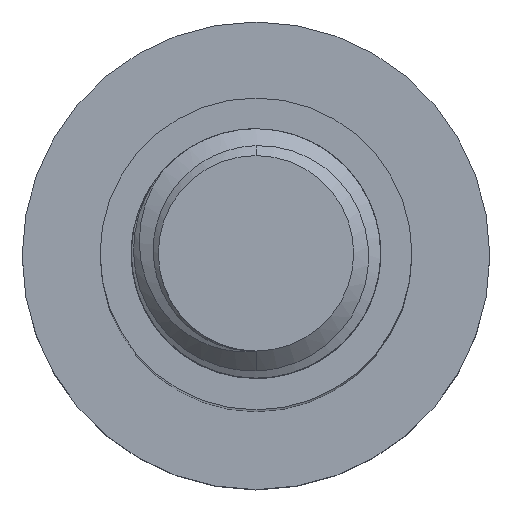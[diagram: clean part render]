
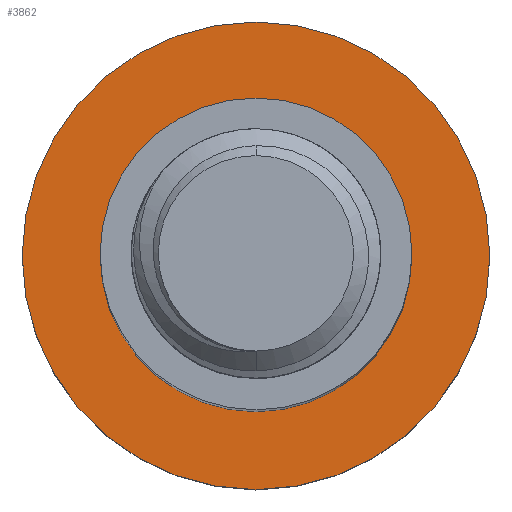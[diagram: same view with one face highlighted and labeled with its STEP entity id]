
A CAD part, top view. The second image highlights one B-rep face of the part: STEP entity #3862.
In plain terms, the highlighted planar face has unit normal (0, 0, 1).
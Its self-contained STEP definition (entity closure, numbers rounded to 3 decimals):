
#29 = AXIS2_PLACEMENT_3D ( 'NONE', #4914, #2724, #97 ) ;
#97 = DIRECTION ( 'NONE',  ( -1., 0., 0. ) ) ;
#168 = FACE_OUTER_BOUND ( 'NONE', #1509, .T. ) ;
#176 = DIRECTION ( 'NONE',  ( 0., 0., -1. ) ) ;
#205 = ORIENTED_EDGE ( 'NONE', *, *, #2447, .T. ) ;
#495 = AXIS2_PLACEMENT_3D ( 'NONE', #945, #571, #5309 ) ;
#499 = CIRCLE ( 'NONE', #3736, 15. ) ;
#571 = DIRECTION ( 'NONE',  ( 0., 0., -1. ) ) ;
#588 = AXIS2_PLACEMENT_3D ( 'NONE', #4124, #5023, #1572 ) ;
#680 = CIRCLE ( 'NONE', #495, 10. ) ;
#884 = ORIENTED_EDGE ( 'NONE', *, *, #1107, .F. ) ;
#945 = CARTESIAN_POINT ( 'NONE',  ( 0., 0., -70. ) ) ;
#1107 = EDGE_CURVE ( 'NONE', #2495, #3877, #2428, .T. ) ;
#1370 = ORIENTED_EDGE ( 'NONE', *, *, #5648, .F. ) ;
#1509 = EDGE_LOOP ( 'NONE', ( #1370, #884 ) ) ;
#1532 = CARTESIAN_POINT ( 'NONE',  ( 0., 0., -70. ) ) ;
#1563 = PLANE ( 'NONE',  #5376 ) ;
#1572 = DIRECTION ( 'NONE',  ( -1., 0., 0. ) ) ;
#2053 = DIRECTION ( 'NONE',  ( 0., 0., -1. ) ) ;
#2428 = CIRCLE ( 'NONE', #588, 15. ) ;
#2447 = EDGE_CURVE ( 'NONE', #5426, #5267, #5001, .T. ) ;
#2495 = VERTEX_POINT ( 'NONE', #4629 ) ;
#2724 = DIRECTION ( 'NONE',  ( 0., 0., -1. ) ) ;
#2772 = CARTESIAN_POINT ( 'NONE',  ( 0., 0., -70. ) ) ;
#3256 = CARTESIAN_POINT ( 'NONE',  ( 15., 0., -70. ) ) ;
#3487 = CARTESIAN_POINT ( 'NONE',  ( 10., 0., -70. ) ) ;
#3736 = AXIS2_PLACEMENT_3D ( 'NONE', #2772, #176, #4902 ) ;
#3751 = EDGE_CURVE ( 'NONE', #5267, #5426, #680, .T. ) ;
#3862 = ADVANCED_FACE ( 'NONE', ( #4609, #168 ), #1563, .F. ) ;
#3877 = VERTEX_POINT ( 'NONE', #3256 ) ;
#4124 = CARTESIAN_POINT ( 'NONE',  ( 0., 0., -70. ) ) ;
#4334 = CARTESIAN_POINT ( 'NONE',  ( -10., 0., -70. ) ) ;
#4609 = FACE_BOUND ( 'NONE', #5258, .T. ) ;
#4629 = CARTESIAN_POINT ( 'NONE',  ( -15., 0., -70. ) ) ;
#4902 = DIRECTION ( 'NONE',  ( -1., 0., 0. ) ) ;
#4914 = CARTESIAN_POINT ( 'NONE',  ( 0., 0., -70. ) ) ;
#5001 = CIRCLE ( 'NONE', #29, 10. ) ;
#5023 = DIRECTION ( 'NONE',  ( 0., 0., -1. ) ) ;
#5110 = ORIENTED_EDGE ( 'NONE', *, *, #3751, .T. ) ;
#5258 = EDGE_LOOP ( 'NONE', ( #205, #5110 ) ) ;
#5267 = VERTEX_POINT ( 'NONE', #3487 ) ;
#5309 = DIRECTION ( 'NONE',  ( -1., 0., 0. ) ) ;
#5376 = AXIS2_PLACEMENT_3D ( 'NONE', #1532, #2053, #5471 ) ;
#5426 = VERTEX_POINT ( 'NONE', #4334 ) ;
#5471 = DIRECTION ( 'NONE',  ( -1., 0., 0. ) ) ;
#5648 = EDGE_CURVE ( 'NONE', #3877, #2495, #499, .T. ) ;
